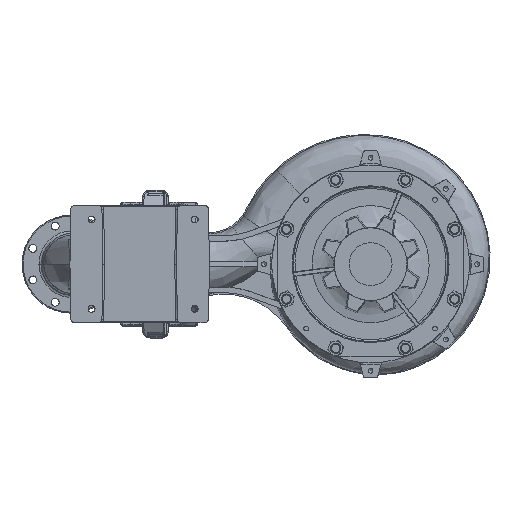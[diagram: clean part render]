
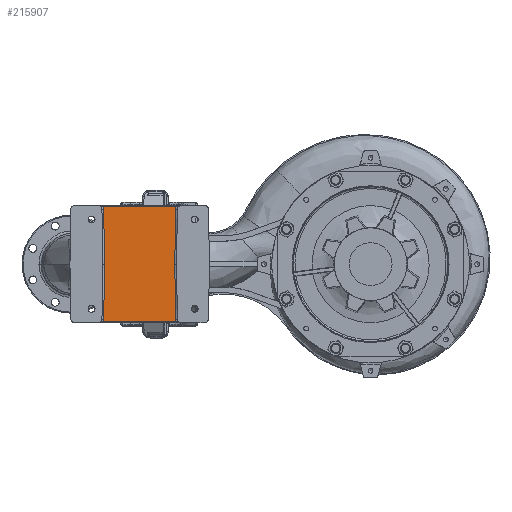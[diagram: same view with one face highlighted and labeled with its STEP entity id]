
A CAD part, front view. The second image highlights one B-rep face of the part: STEP entity #215907.
In plain terms, the highlighted planar face has unit normal (0, -1, 0).
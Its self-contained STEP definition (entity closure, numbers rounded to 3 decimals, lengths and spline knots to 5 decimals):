
#4941 = CIRCLE ( 'NONE', #166778, 0.015 ) ;
#5437 = AXIS2_PLACEMENT_3D ( 'NONE', #63662, #97807, #80755 ) ;
#6592 = DIRECTION ( 'NONE',  ( -1., 0., 0. ) ) ;
#9249 = CARTESIAN_POINT ( 'NONE',  ( -0.56544, -0.58506, -0.167 ) ) ;
#12748 = EDGE_CURVE ( 'NONE', #34799, #217976, #87454, .T. ) ;
#12791 = CARTESIAN_POINT ( 'NONE',  ( -0.77856, -0.58506, 0.167 ) ) ;
#14786 = EDGE_CURVE ( 'NONE', #141990, #141703, #4941, .T. ) ;
#16353 = VERTEX_POINT ( 'NONE', #218239 ) ;
#19725 = VERTEX_POINT ( 'NONE', #9249 ) ;
#25218 = CARTESIAN_POINT ( 'NONE',  ( -0.77406, -0.58506, 0.00171 ) ) ;
#27760 = CIRCLE ( 'NONE', #165013, 0.015 ) ;
#29447 = CARTESIAN_POINT ( 'NONE',  ( -0.55217, -0.58506, -0.16 ) ) ;
#29935 = ORIENTED_EDGE ( 'NONE', *, *, #14786, .T. ) ;
#34799 = VERTEX_POINT ( 'NONE', #44876 ) ;
#35110 = DIRECTION ( 'NONE',  ( 0., 1., 0. ) ) ;
#36985 = CARTESIAN_POINT ( 'NONE',  ( -0.56717, -0.58506, -0.16026 ) ) ;
#43729 = ORIENTED_EDGE ( 'NONE', *, *, #12748, .T. ) ;
#44876 = CARTESIAN_POINT ( 'NONE',  ( -0.77683, -0.58506, 0.16026 ) ) ;
#55447 = LINE ( 'NONE', #80003, #156463 ) ;
#56559 = VECTOR ( 'NONE', #184458, 1. ) ;
#60233 = VERTEX_POINT ( 'NONE', #129244 ) ;
#61682 = VECTOR ( 'NONE', #147183, 1. ) ;
#63151 = DIRECTION ( 'NONE',  ( 0., 1., 0. ) ) ;
#63662 = CARTESIAN_POINT ( 'NONE',  ( -0.872, -0.58506, 0. ) ) ;
#69715 = ORIENTED_EDGE ( 'NONE', *, *, #139570, .T. ) ;
#70415 = VECTOR ( 'NONE', #6592, 1. ) ;
#71279 = ORIENTED_EDGE ( 'NONE', *, *, #208751, .T. ) ;
#72712 = EDGE_CURVE ( 'NONE', #85474, #34799, #100854, .T. ) ;
#79969 = ORIENTED_EDGE ( 'NONE', *, *, #212804, .T. ) ;
#80003 = CARTESIAN_POINT ( 'NONE',  ( -0.57006, -0.58506, -0.00527 ) ) ;
#80755 = DIRECTION ( 'NONE',  ( 0., 0., -1. ) ) ;
#82177 = DIRECTION ( 'NONE',  ( 0., 0., -1. ) ) ;
#82200 = PLANE ( 'NONE',  #5437 ) ;
#83474 = LINE ( 'NONE', #168208, #56559 ) ;
#84812 = CARTESIAN_POINT ( 'NONE',  ( -0.77683, -0.58506, -0.16026 ) ) ;
#85474 = VERTEX_POINT ( 'NONE', #12791 ) ;
#85712 = CARTESIAN_POINT ( 'NONE',  ( -0.79183, -0.58506, -0.16 ) ) ;
#87454 = LINE ( 'NONE', #25218, #199032 ) ;
#87648 = CARTESIAN_POINT ( 'NONE',  ( -0.872, -0.58506, 0.167 ) ) ;
#88968 = DIRECTION ( 'NONE',  ( 0., 1., 0. ) ) ;
#97784 = DIRECTION ( 'NONE',  ( 0., 1., 0. ) ) ;
#97807 = DIRECTION ( 'NONE',  ( 0., -1., 0. ) ) ;
#97850 = CARTESIAN_POINT ( 'NONE',  ( -0.77683, -0.58506, -0.16026 ) ) ;
#100854 = CIRCLE ( 'NONE', #161190, 0.015 ) ;
#106718 = DIRECTION ( 'NONE',  ( 0., 0., -1. ) ) ;
#107822 = VECTOR ( 'NONE', #184255, 1. ) ;
#110380 = CARTESIAN_POINT ( 'NONE',  ( -0.77403, -0.58506, 0. ) ) ;
#110733 = DIRECTION ( 'NONE',  ( 0., 0., -1. ) ) ;
#115178 = ORIENTED_EDGE ( 'NONE', *, *, #72712, .T. ) ;
#115593 = LINE ( 'NONE', #87648, #70415 ) ;
#117443 = LINE ( 'NONE', #183418, #61682 ) ;
#120067 = FACE_OUTER_BOUND ( 'NONE', #131737, .T. ) ;
#123062 = AXIS2_PLACEMENT_3D ( 'NONE', #29447, #97784, #82177 ) ;
#129244 = CARTESIAN_POINT ( 'NONE',  ( -0.56997, -0.58506, 0. ) ) ;
#131622 = ORIENTED_EDGE ( 'NONE', *, *, #139572, .T. ) ;
#131737 = EDGE_LOOP ( 'NONE', ( #186951, #172179, #69715, #79969, #131622, #29935, #71279, #115178, #43729, #166917 ) ) ;
#139570 = EDGE_CURVE ( 'NONE', #19725, #192503, #151113, .T. ) ;
#139572 = EDGE_CURVE ( 'NONE', #60233, #141990, #55447, .T. ) ;
#141703 = VERTEX_POINT ( 'NONE', #146098 ) ;
#141990 = VERTEX_POINT ( 'NONE', #201597 ) ;
#146098 = CARTESIAN_POINT ( 'NONE',  ( -0.56544, -0.58506, 0.167 ) ) ;
#147183 = DIRECTION ( 'NONE',  ( 1., 0., 0. ) ) ;
#151113 = CIRCLE ( 'NONE', #123062, 0.015 ) ;
#156463 = VECTOR ( 'NONE', #198729, 1. ) ;
#157243 = CARTESIAN_POINT ( 'NONE',  ( -0.55217, -0.58506, 0.16 ) ) ;
#161190 = AXIS2_PLACEMENT_3D ( 'NONE', #163450, #63151, #110733 ) ;
#163450 = CARTESIAN_POINT ( 'NONE',  ( -0.79183, -0.58506, 0.16 ) ) ;
#163671 = LINE ( 'NONE', #84812, #107822 ) ;
#163694 = EDGE_CURVE ( 'NONE', #217976, #167619, #163671, .T. ) ;
#165013 = AXIS2_PLACEMENT_3D ( 'NONE', #85712, #35110, #186598 ) ;
#166778 = AXIS2_PLACEMENT_3D ( 'NONE', #157243, #88968, #106718 ) ;
#166917 = ORIENTED_EDGE ( 'NONE', *, *, #163694, .T. ) ;
#167619 = VERTEX_POINT ( 'NONE', #97850 ) ;
#168208 = CARTESIAN_POINT ( 'NONE',  ( -0.56997, -0.58506, -0.00009 ) ) ;
#172179 = ORIENTED_EDGE ( 'NONE', *, *, #216617, .T. ) ;
#183418 = CARTESIAN_POINT ( 'NONE',  ( -0.872, -0.58506, -0.167 ) ) ;
#184255 = DIRECTION ( 'NONE',  ( -0.017, 0., -1. ) ) ;
#184458 = DIRECTION ( 'NONE',  ( -0.017, 0., 1. ) ) ;
#186598 = DIRECTION ( 'NONE',  ( 0., 0., -1. ) ) ;
#186951 = ORIENTED_EDGE ( 'NONE', *, *, #195620, .T. ) ;
#192503 = VERTEX_POINT ( 'NONE', #36985 ) ;
#195234 = DIRECTION ( 'NONE',  ( 0.017, 0., -1. ) ) ;
#195620 = EDGE_CURVE ( 'NONE', #167619, #16353, #27760, .T. ) ;
#198729 = DIRECTION ( 'NONE',  ( 0.017, 0., 1. ) ) ;
#199032 = VECTOR ( 'NONE', #195234, 1. ) ;
#201597 = CARTESIAN_POINT ( 'NONE',  ( -0.56717, -0.58506, 0.16026 ) ) ;
#208751 = EDGE_CURVE ( 'NONE', #141703, #85474, #115593, .T. ) ;
#212804 = EDGE_CURVE ( 'NONE', #192503, #60233, #83474, .T. ) ;
#215907 = ADVANCED_FACE ( 'NONE', ( #120067 ), #82200, .T. ) ;
#216617 = EDGE_CURVE ( 'NONE', #16353, #19725, #117443, .T. ) ;
#217976 = VERTEX_POINT ( 'NONE', #110380 ) ;
#218239 = CARTESIAN_POINT ( 'NONE',  ( -0.77856, -0.58506, -0.167 ) ) ;
